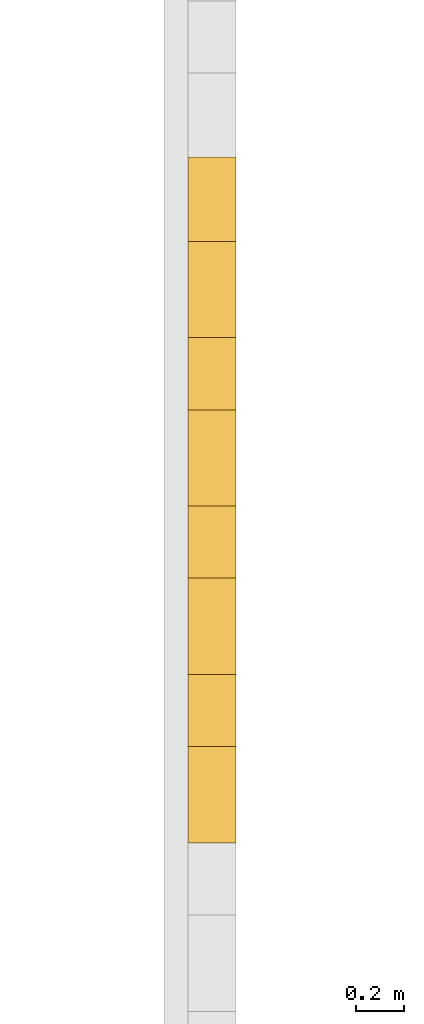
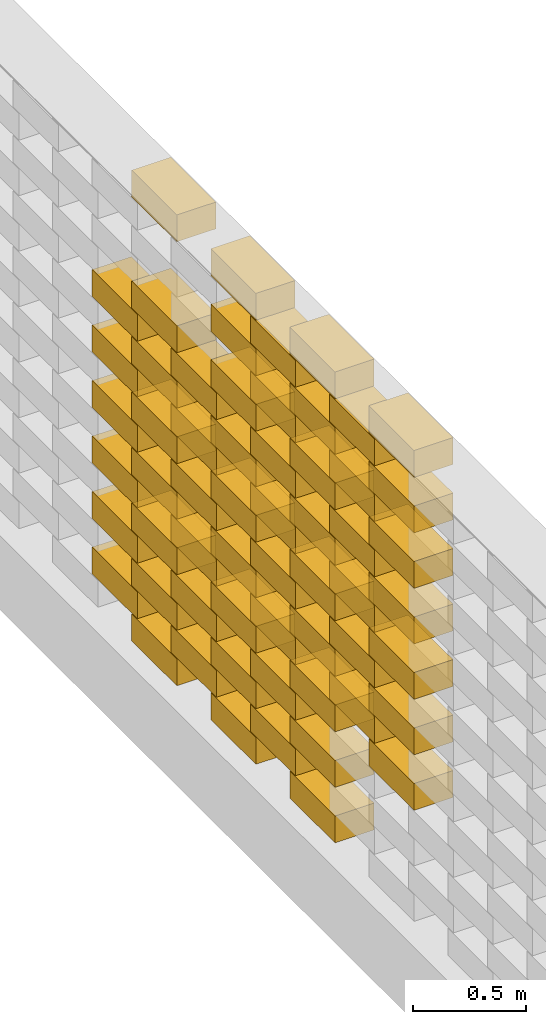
# One storey, part 41 of 62: 69 railings.
"""IFC2X3 building model written with IfcOpenShell, lengths in millimetres."""

from ifc_helpers import new_model, entity, si_unit, converted_unit, derived_unit, money_unit, direction, frame, origin_with_axes, place, context, subcontext, project, spatial, polyline, outline, extrude, material, type_object, element, save


model = new_model("IFC2X3")

# Units and contexts
model_context = context("Model", 3, precision=0.01, world=origin_with_axes(), true_north=direction((0.0, 1.0)))
body_context = subcontext(model_context, "Body", "Model", "MODEL_VIEW")
ifc_project = project(units=[si_unit("LENGTHUNIT", "METRE", prefix="MILLI"), si_unit("AREAUNIT", "SQUARE_METRE"), si_unit("VOLUMEUNIT", "CUBIC_METRE"), converted_unit("PLANEANGLEUNIT", "DEGREE", entity("IfcPlaneAngleMeasure", 0.0174532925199), si_unit("PLANEANGLEUNIT", "RADIAN"), dimensions=[0, 0, 0, 0, 0, 0, 0]), si_unit("SOLIDANGLEUNIT", "STERADIAN"), money_unit("EUR"), converted_unit("TIMEUNIT", "Year", entity("IfcTimeMeasure", 31556926.0), si_unit("TIMEUNIT", "SECOND"), dimensions=[0, 0, 1, 0, 0, 0, 0]), si_unit("MASSUNIT", "GRAM", prefix="KILO"), si_unit("THERMODYNAMICTEMPERATUREUNIT", "DEGREE_CELSIUS"), si_unit("LUMINOUSINTENSITYUNIT", "LUMEN"), si_unit("ENERGYUNIT", "JOULE", prefix="MEGA"), derived_unit("THERMALCONDUCTANCEUNIT", [(si_unit("POWERUNIT", "WATT"), 1), (si_unit("LENGTHUNIT", "METRE"), -1), (si_unit("THERMODYNAMICTEMPERATUREUNIT", "KELVIN"), -1)]), derived_unit("SPECIFICHEATCAPACITYUNIT", [(si_unit("ENERGYUNIT", "JOULE"), 1), (si_unit("MASSUNIT", "GRAM", prefix="KILO"), -1), (si_unit("THERMODYNAMICTEMPERATUREUNIT", "KELVIN"), -1)]), derived_unit("MASSDENSITYUNIT", [(si_unit("MASSUNIT", "GRAM", prefix="KILO"), 1), (si_unit("VOLUMEUNIT", "CUBIC_METRE"), -1)])], contexts=[model_context])

# Site, building, storey
site_placement = place(None, origin_with_axes())
site = spatial("IfcSite", under=ifc_project, at=site_placement, Name="KIRDE 14, ELVA", CompositionType="ELEMENT")
building_placement = place(site_placement, origin_with_axes())
building = spatial("IfcBuilding", under=site, at=building_placement, Name="PPA ja Päästeameti ühishoone", CompositionType="ELEMENT")
storey_placement = place(building_placement, origin_with_axes())
storey = spatial("IfcBuildingStorey", under=building, at=storey_placement, Name="Esimene korrus", CompositionType="ELEMENT", Elevation=0.0)

# Railings
ifc_material = material(Name="Air Space")
railing_type = type_object("IfcRailingType", Name="Air Space 200", PredefinedType="NOTDEFINED")
railing_1_placement = place(storey_placement, frame((620.000152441, -13923.8398399, 400.0), z_axis=(0.0, 0.0, 1.0), x_axis=(-1.45519152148e-09, -1.0, 0.0)))
element("IfcRailing", 1, at=railing_1_placement, inside=storey, type_object=railing_type, material=ifc_material, Name="plokk", PredefinedType="NOTDEFINED", context=body_context, shape_type="SweptSolid", body=[
    extrude(outline(polyline([(0.0, 0.0), (400.000000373, 0.0), (400.000000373, 200.0), (0.0, 200.0), (0.0, 0.0)])), origin_with_axes(), (0.0, 0.0, 1.0), 145.0),
])
railing_2_placement = place(storey_placement, frame((620.000151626, -14623.8398401, 400.0), z_axis=(0.0, 0.0, 1.0), x_axis=(1.30967236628e-09, -1.0, 0.0)))
element("IfcRailing", 2, at=railing_2_placement, inside=storey, type_object=railing_type, material=ifc_material, Name="plokk", PredefinedType="NOTDEFINED", context=body_context, shape_type="SweptSolid", body=[
    extrude(outline(polyline([(0.0, 0.0), (400.000001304, 0.0), (400.000001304, 200.0), (0.0, 200.0), (0.0, 0.0)])), origin_with_axes(), (0.0, 0.0, 1.0), 145.0),
])
railing_3_placement = place(storey_placement, frame((620.000152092, -15323.8398412, 400.0), z_axis=(0.0, 0.0, 1.0), x_axis=(1.89174898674e-09, -1.0, 0.0)))
element("IfcRailing", 3, at=railing_3_placement, inside=storey, type_object=railing_type, material=ifc_material, Name="plokk", PredefinedType="NOTDEFINED", context=body_context, shape_type="SweptSolid", body=[
    extrude(outline(polyline([(0.0, 0.0), (399.99999851, 0.0), (399.99999851, 200.0), (0.0, 200.0), (0.0, 0.0)])), origin_with_axes(), (0.0, 0.0, 1.0), 145.0),
])
railing_4_placement = place(storey_placement, frame((620.000152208, -13573.8398403, 550.0), z_axis=(0.0, 0.0, 1.0), x_axis=(-4.36557457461e-10, -1.0, 0.0)))
element("IfcRailing", 4, at=railing_4_placement, inside=storey, type_object=railing_type, material=ifc_material, Name="plokk", PredefinedType="NOTDEFINED", context=body_context, shape_type="SweptSolid", body=[
    extrude(outline(polyline([(0.0, 0.0), (399.999999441, 0.0), (399.999999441, 200.0), (0.0, 200.0), (0.0, 0.0)])), origin_with_axes(), (0.0, 0.0, 1.0), 145.0),
])
railing_5_placement = place(storey_placement, frame((620.000151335, -14273.8398414, 550.0), z_axis=(0.0, 0.0, 1.0), x_axis=(1.89174898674e-09, -1.0, 0.0)))
element("IfcRailing", 5, at=railing_5_placement, inside=storey, type_object=railing_type, material=ifc_material, Name="plokk", PredefinedType="NOTDEFINED", context=body_context, shape_type="SweptSolid", body=[
    extrude(outline(polyline([(0.0, 0.0), (399.99999851, 0.0), (399.99999851, 200.0), (0.0, 200.0), (0.0, 0.0)])), origin_with_axes(), (0.0, 0.0, 1.0), 145.0),
])
for number, where, z_axis, x_axis in (
    (6, (620.000152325, -14973.8398407, 550.0), (0.0, 0.0, 1.0), (7.27595760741e-10, -1.0, 0.0)),
    (7, (620.000152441, -13923.8398399, 700.0), (0.0, 0.0, 1.0), (-1.45519152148e-09, -1.0, 0.0)),
):
    element("IfcRailing", number, at=place(storey_placement, frame(where, z_axis=z_axis, x_axis=x_axis)), inside=storey, type_object=railing_type, material=ifc_material, Name="plokk", PredefinedType="NOTDEFINED", context=body_context, shape_type="SweptSolid", body=[
        extrude(outline(polyline([(0.0, 0.0), (400.000000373, 0.0), (400.000000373, 200.0), (0.0, 200.0), (0.0, 0.0)])), origin_with_axes(), (0.0, 0.0, 1.0), 145.0),
    ])
railing_6_placement = place(storey_placement, frame((620.000151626, -14623.8398401, 700.0), z_axis=(0.0, 0.0, 1.0), x_axis=(1.30967236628e-09, -1.0, 0.0)))
element("IfcRailing", 8, at=railing_6_placement, inside=storey, type_object=railing_type, material=ifc_material, Name="plokk", PredefinedType="NOTDEFINED", context=body_context, shape_type="SweptSolid", body=[
    extrude(outline(polyline([(0.0, 0.0), (400.000001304, 0.0), (400.000001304, 200.0), (0.0, 200.0), (0.0, 0.0)])), origin_with_axes(), (0.0, 0.0, 1.0), 145.0),
])
railing_7_placement = place(storey_placement, frame((620.000152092, -15323.8398412, 700.0), z_axis=(0.0, 0.0, 1.0), x_axis=(1.89174898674e-09, -1.0, 0.0)))
element("IfcRailing", 9, at=railing_7_placement, inside=storey, type_object=railing_type, material=ifc_material, Name="plokk", PredefinedType="NOTDEFINED", context=body_context, shape_type="SweptSolid", body=[
    extrude(outline(polyline([(0.0, 0.0), (399.99999851, 0.0), (399.99999851, 200.0), (0.0, 200.0), (0.0, 0.0)])), origin_with_axes(), (0.0, 0.0, 1.0), 145.0),
])
railing_8_placement = place(storey_placement, frame((620.000152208, -13573.8398403, 850.0), z_axis=(0.0, 0.0, 1.0), x_axis=(-4.36557457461e-10, -1.0, 0.0)))
element("IfcRailing", 10, at=railing_8_placement, inside=storey, type_object=railing_type, material=ifc_material, Name="plokk", PredefinedType="NOTDEFINED", context=body_context, shape_type="SweptSolid", body=[
    extrude(outline(polyline([(0.0, 0.0), (399.999999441, 0.0), (399.999999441, 200.0), (0.0, 200.0), (0.0, 0.0)])), origin_with_axes(), (0.0, 0.0, 1.0), 145.0),
])
railing_9_placement = place(storey_placement, frame((620.000151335, -14273.8398414, 850.0), z_axis=(0.0, 0.0, 1.0), x_axis=(1.89174898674e-09, -1.0, 0.0)))
element("IfcRailing", 11, at=railing_9_placement, inside=storey, type_object=railing_type, material=ifc_material, Name="plokk", PredefinedType="NOTDEFINED", context=body_context, shape_type="SweptSolid", body=[
    extrude(outline(polyline([(0.0, 0.0), (399.99999851, 0.0), (399.99999851, 200.0), (0.0, 200.0), (0.0, 0.0)])), origin_with_axes(), (0.0, 0.0, 1.0), 145.0),
])
for number, where, z_axis, x_axis in (
    (12, (620.000152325, -14973.8398407, 850.0), (0.0, 0.0, 1.0), (7.27595760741e-10, -1.0, 0.0)),
    (13, (620.000152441, -13923.8398399, 1000.0), (0.0, 0.0, 1.0), (-1.45519152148e-09, -1.0, 0.0)),
):
    element("IfcRailing", number, at=place(storey_placement, frame(where, z_axis=z_axis, x_axis=x_axis)), inside=storey, type_object=railing_type, material=ifc_material, Name="plokk", PredefinedType="NOTDEFINED", context=body_context, shape_type="SweptSolid", body=[
        extrude(outline(polyline([(0.0, 0.0), (400.000000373, 0.0), (400.000000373, 200.0), (0.0, 200.0), (0.0, 0.0)])), origin_with_axes(), (0.0, 0.0, 1.0), 145.0),
    ])
railing_10_placement = place(storey_placement, frame((620.000151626, -14623.8398401, 1000.0), z_axis=(0.0, 0.0, 1.0), x_axis=(1.30967236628e-09, -1.0, 0.0)))
element("IfcRailing", 14, at=railing_10_placement, inside=storey, type_object=railing_type, material=ifc_material, Name="plokk", PredefinedType="NOTDEFINED", context=body_context, shape_type="SweptSolid", body=[
    extrude(outline(polyline([(0.0, 0.0), (400.000001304, 0.0), (400.000001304, 200.0), (0.0, 200.0), (0.0, 0.0)])), origin_with_axes(), (0.0, 0.0, 1.0), 145.0),
])
railing_11_placement = place(storey_placement, frame((620.000152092, -15323.8398412, 1000.0), z_axis=(0.0, 0.0, 1.0), x_axis=(1.89174898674e-09, -1.0, 0.0)))
element("IfcRailing", 15, at=railing_11_placement, inside=storey, type_object=railing_type, material=ifc_material, Name="plokk", PredefinedType="NOTDEFINED", context=body_context, shape_type="SweptSolid", body=[
    extrude(outline(polyline([(0.0, 0.0), (399.99999851, 0.0), (399.99999851, 200.0), (0.0, 200.0), (0.0, 0.0)])), origin_with_axes(), (0.0, 0.0, 1.0), 145.0),
])
railing_12_placement = place(storey_placement, frame((620.000152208, -16023.8398405, 2800.0), z_axis=(0.0, 0.0, 1.0), x_axis=(0.0, -1.0, 0.0)))
element("IfcRailing", 16, at=railing_12_placement, inside=storey, type_object=railing_type, material=ifc_material, Name="plokk", PredefinedType="NOTDEFINED", context=body_context, shape_type="SweptSolid", body=[
    extrude(outline(polyline([(0.0, 0.0), (399.999999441, 0.0), (399.999999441, 200.0), (0.0, 200.0), (0.0, 0.0)])), origin_with_axes(), (0.0, 0.0, 1.0), 145.0),
])
railing_13_placement = place(storey_placement, frame((620.000152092, -15323.8398412, 2800.0), z_axis=(0.0, 0.0, 1.0), x_axis=(1.89174898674e-09, -1.0, 0.0)))
element("IfcRailing", 17, at=railing_13_placement, inside=storey, type_object=railing_type, material=ifc_material, Name="plokk", PredefinedType="NOTDEFINED", context=body_context, shape_type="SweptSolid", body=[
    extrude(outline(polyline([(0.0, 0.0), (399.99999851, 0.0), (399.99999851, 200.0), (0.0, 200.0), (0.0, 0.0)])), origin_with_axes(), (0.0, 0.0, 1.0), 145.0),
])
railing_14_placement = place(storey_placement, frame((620.000151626, -14623.8398401, 2800.0), z_axis=(0.0, 0.0, 1.0), x_axis=(1.30967236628e-09, -1.0, 0.0)))
element("IfcRailing", 18, at=railing_14_placement, inside=storey, type_object=railing_type, material=ifc_material, Name="plokk", PredefinedType="NOTDEFINED", context=body_context, shape_type="SweptSolid", body=[
    extrude(outline(polyline([(0.0, 0.0), (400.000001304, 0.0), (400.000001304, 200.0), (0.0, 200.0), (0.0, 0.0)])), origin_with_axes(), (0.0, 0.0, 1.0), 145.0),
])
for number, where, z_axis, x_axis in (
    (19, (620.000152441, -13923.8398399, 2800.0), (0.0, 0.0, 1.0), (-1.45519152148e-09, -1.0, 0.0)),
    (20, (620.000152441, -13923.8398399, 1000.0), (0.0, 0.0, 1.0), (-1.45519152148e-09, -1.0, 0.0)),
):
    element("IfcRailing", number, at=place(storey_placement, frame(where, z_axis=z_axis, x_axis=x_axis)), inside=storey, type_object=railing_type, material=ifc_material, Name="plokk", PredefinedType="NOTDEFINED", context=body_context, shape_type="SweptSolid", body=[
        extrude(outline(polyline([(0.0, 0.0), (400.000000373, 0.0), (400.000000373, 200.0), (0.0, 200.0), (0.0, 0.0)])), origin_with_axes(), (0.0, 0.0, 1.0), 145.0),
    ])
railing_15_placement = place(storey_placement, frame((620.000151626, -14623.8398401, 1000.0), z_axis=(0.0, 0.0, 1.0), x_axis=(1.30967236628e-09, -1.0, 0.0)))
element("IfcRailing", 21, at=railing_15_placement, inside=storey, type_object=railing_type, material=ifc_material, Name="plokk", PredefinedType="NOTDEFINED", context=body_context, shape_type="SweptSolid", body=[
    extrude(outline(polyline([(0.0, 0.0), (400.000001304, 0.0), (400.000001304, 200.0), (0.0, 200.0), (0.0, 0.0)])), origin_with_axes(), (0.0, 0.0, 1.0), 145.0),
])
railing_16_placement = place(storey_placement, frame((620.000152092, -15323.8398412, 1000.0), z_axis=(0.0, 0.0, 1.0), x_axis=(1.89174898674e-09, -1.0, 0.0)))
element("IfcRailing", 22, at=railing_16_placement, inside=storey, type_object=railing_type, material=ifc_material, Name="plokk", PredefinedType="NOTDEFINED", context=body_context, shape_type="SweptSolid", body=[
    extrude(outline(polyline([(0.0, 0.0), (399.99999851, 0.0), (399.99999851, 200.0), (0.0, 200.0), (0.0, 0.0)])), origin_with_axes(), (0.0, 0.0, 1.0), 145.0),
])
for number, where, z_axis, x_axis in (
    (23, (620.000152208, -16023.8398405, 1000.0), (0.0, 0.0, 1.0), (0.0, -1.0, 0.0)),
    (24, (620.000152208, -13573.8398403, 1150.0), (0.0, 0.0, 1.0), (-4.36557457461e-10, -1.0, 0.0)),
):
    element("IfcRailing", number, at=place(storey_placement, frame(where, z_axis=z_axis, x_axis=x_axis)), inside=storey, type_object=railing_type, material=ifc_material, Name="plokk", PredefinedType="NOTDEFINED", context=body_context, shape_type="SweptSolid", body=[
        extrude(outline(polyline([(0.0, 0.0), (399.999999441, 0.0), (399.999999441, 200.0), (0.0, 200.0), (0.0, 0.0)])), origin_with_axes(), (0.0, 0.0, 1.0), 145.0),
    ])
railing_17_placement = place(storey_placement, frame((620.000151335, -14273.8398414, 1150.0), z_axis=(0.0, 0.0, 1.0), x_axis=(1.89174898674e-09, -1.0, 0.0)))
element("IfcRailing", 25, at=railing_17_placement, inside=storey, type_object=railing_type, material=ifc_material, Name="plokk", PredefinedType="NOTDEFINED", context=body_context, shape_type="SweptSolid", body=[
    extrude(outline(polyline([(0.0, 0.0), (399.99999851, 0.0), (399.99999851, 200.0), (0.0, 200.0), (0.0, 0.0)])), origin_with_axes(), (0.0, 0.0, 1.0), 145.0),
])
railing_18_placement = place(storey_placement, frame((620.000152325, -14973.8398407, 1150.0), z_axis=(0.0, 0.0, 1.0), x_axis=(7.27595760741e-10, -1.0, 0.0)))
element("IfcRailing", 26, at=railing_18_placement, inside=storey, type_object=railing_type, material=ifc_material, Name="plokk", PredefinedType="NOTDEFINED", context=body_context, shape_type="SweptSolid", body=[
    extrude(outline(polyline([(0.0, 0.0), (400.000000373, 0.0), (400.000000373, 200.0), (0.0, 200.0), (0.0, 0.0)])), origin_with_axes(), (0.0, 0.0, 1.0), 145.0),
])
railing_19_placement = place(storey_placement, frame((620.000152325, -15673.8398409, 1150.0), z_axis=(0.0, 0.0, 1.0), x_axis=(-8.73114914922e-10, -1.0, 0.0)))
element("IfcRailing", 27, at=railing_19_placement, inside=storey, type_object=railing_type, material=ifc_material, Name="plokk", PredefinedType="NOTDEFINED", context=body_context, shape_type="SweptSolid", body=[
    extrude(outline(polyline([(0.0, 0.0), (399.999999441, 0.0), (399.999999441, 200.0), (0.0, 200.0), (0.0, 0.0)])), origin_with_axes(), (0.0, 0.0, 1.0), 145.0),
])
railing_20_placement = place(storey_placement, frame((620.000152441, -13923.8398399, 1300.0), z_axis=(0.0, 0.0, 1.0), x_axis=(-1.45519152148e-09, -1.0, 0.0)))
element("IfcRailing", 28, at=railing_20_placement, inside=storey, type_object=railing_type, material=ifc_material, Name="plokk", PredefinedType="NOTDEFINED", context=body_context, shape_type="SweptSolid", body=[
    extrude(outline(polyline([(0.0, 0.0), (400.000000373, 0.0), (400.000000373, 200.0), (0.0, 200.0), (0.0, 0.0)])), origin_with_axes(), (0.0, 0.0, 1.0), 145.0),
])
railing_21_placement = place(storey_placement, frame((620.000151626, -14623.8398401, 1300.0), z_axis=(0.0, 0.0, 1.0), x_axis=(1.30967236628e-09, -1.0, 0.0)))
element("IfcRailing", 29, at=railing_21_placement, inside=storey, type_object=railing_type, material=ifc_material, Name="plokk", PredefinedType="NOTDEFINED", context=body_context, shape_type="SweptSolid", body=[
    extrude(outline(polyline([(0.0, 0.0), (400.000001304, 0.0), (400.000001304, 200.0), (0.0, 200.0), (0.0, 0.0)])), origin_with_axes(), (0.0, 0.0, 1.0), 145.0),
])
railing_22_placement = place(storey_placement, frame((620.000152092, -15323.8398412, 1300.0), z_axis=(0.0, 0.0, 1.0), x_axis=(1.89174898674e-09, -1.0, 0.0)))
element("IfcRailing", 30, at=railing_22_placement, inside=storey, type_object=railing_type, material=ifc_material, Name="plokk", PredefinedType="NOTDEFINED", context=body_context, shape_type="SweptSolid", body=[
    extrude(outline(polyline([(0.0, 0.0), (399.99999851, 0.0), (399.99999851, 200.0), (0.0, 200.0), (0.0, 0.0)])), origin_with_axes(), (0.0, 0.0, 1.0), 145.0),
])
for number, where, z_axis, x_axis in (
    (31, (620.000152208, -16023.8398405, 1300.0), (0.0, 0.0, 1.0), (0.0, -1.0, 0.0)),
    (32, (620.000152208, -13573.8398403, 1450.0), (0.0, 0.0, 1.0), (-4.36557457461e-10, -1.0, 0.0)),
):
    element("IfcRailing", number, at=place(storey_placement, frame(where, z_axis=z_axis, x_axis=x_axis)), inside=storey, type_object=railing_type, material=ifc_material, Name="plokk", PredefinedType="NOTDEFINED", context=body_context, shape_type="SweptSolid", body=[
        extrude(outline(polyline([(0.0, 0.0), (399.999999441, 0.0), (399.999999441, 200.0), (0.0, 200.0), (0.0, 0.0)])), origin_with_axes(), (0.0, 0.0, 1.0), 145.0),
    ])
railing_23_placement = place(storey_placement, frame((620.000151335, -14273.8398414, 1450.0), z_axis=(0.0, 0.0, 1.0), x_axis=(1.89174898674e-09, -1.0, 0.0)))
element("IfcRailing", 33, at=railing_23_placement, inside=storey, type_object=railing_type, material=ifc_material, Name="plokk", PredefinedType="NOTDEFINED", context=body_context, shape_type="SweptSolid", body=[
    extrude(outline(polyline([(0.0, 0.0), (399.99999851, 0.0), (399.99999851, 200.0), (0.0, 200.0), (0.0, 0.0)])), origin_with_axes(), (0.0, 0.0, 1.0), 145.0),
])
railing_24_placement = place(storey_placement, frame((620.000152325, -14973.8398407, 1450.0), z_axis=(0.0, 0.0, 1.0), x_axis=(7.27595760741e-10, -1.0, 0.0)))
element("IfcRailing", 34, at=railing_24_placement, inside=storey, type_object=railing_type, material=ifc_material, Name="plokk", PredefinedType="NOTDEFINED", context=body_context, shape_type="SweptSolid", body=[
    extrude(outline(polyline([(0.0, 0.0), (400.000000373, 0.0), (400.000000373, 200.0), (0.0, 200.0), (0.0, 0.0)])), origin_with_axes(), (0.0, 0.0, 1.0), 145.0),
])
railing_25_placement = place(storey_placement, frame((620.000152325, -15673.8398409, 1450.0), z_axis=(0.0, 0.0, 1.0), x_axis=(-8.73114914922e-10, -1.0, 0.0)))
element("IfcRailing", 35, at=railing_25_placement, inside=storey, type_object=railing_type, material=ifc_material, Name="plokk", PredefinedType="NOTDEFINED", context=body_context, shape_type="SweptSolid", body=[
    extrude(outline(polyline([(0.0, 0.0), (399.999999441, 0.0), (399.999999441, 200.0), (0.0, 200.0), (0.0, 0.0)])), origin_with_axes(), (0.0, 0.0, 1.0), 145.0),
])
railing_26_placement = place(storey_placement, frame((620.000152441, -13923.8398399, 1600.0), z_axis=(0.0, 0.0, 1.0), x_axis=(-1.45519152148e-09, -1.0, 0.0)))
element("IfcRailing", 36, at=railing_26_placement, inside=storey, type_object=railing_type, material=ifc_material, Name="plokk", PredefinedType="NOTDEFINED", context=body_context, shape_type="SweptSolid", body=[
    extrude(outline(polyline([(0.0, 0.0), (400.000000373, 0.0), (400.000000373, 200.0), (0.0, 200.0), (0.0, 0.0)])), origin_with_axes(), (0.0, 0.0, 1.0), 145.0),
])
railing_27_placement = place(storey_placement, frame((620.000151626, -14623.8398401, 1600.0), z_axis=(0.0, 0.0, 1.0), x_axis=(1.30967236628e-09, -1.0, 0.0)))
element("IfcRailing", 37, at=railing_27_placement, inside=storey, type_object=railing_type, material=ifc_material, Name="plokk", PredefinedType="NOTDEFINED", context=body_context, shape_type="SweptSolid", body=[
    extrude(outline(polyline([(0.0, 0.0), (400.000001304, 0.0), (400.000001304, 200.0), (0.0, 200.0), (0.0, 0.0)])), origin_with_axes(), (0.0, 0.0, 1.0), 145.0),
])
railing_28_placement = place(storey_placement, frame((620.000152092, -15323.8398412, 1600.0), z_axis=(0.0, 0.0, 1.0), x_axis=(1.89174898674e-09, -1.0, 0.0)))
element("IfcRailing", 38, at=railing_28_placement, inside=storey, type_object=railing_type, material=ifc_material, Name="plokk", PredefinedType="NOTDEFINED", context=body_context, shape_type="SweptSolid", body=[
    extrude(outline(polyline([(0.0, 0.0), (399.99999851, 0.0), (399.99999851, 200.0), (0.0, 200.0), (0.0, 0.0)])), origin_with_axes(), (0.0, 0.0, 1.0), 145.0),
])
railing_29_placement = place(storey_placement, frame((620.000152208, -16023.8398405, 1600.0), z_axis=(0.0, 0.0, 1.0), x_axis=(0.0, -1.0, 0.0)))
element("IfcRailing", 39, at=railing_29_placement, inside=storey, type_object=railing_type, material=ifc_material, Name="plokk", PredefinedType="NOTDEFINED", context=body_context, shape_type="SweptSolid", body=[
    extrude(outline(polyline([(0.0, 0.0), (399.999999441, 0.0), (399.999999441, 200.0), (0.0, 200.0), (0.0, 0.0)])), origin_with_axes(), (0.0, 0.0, 1.0), 145.0),
])
railing_30_placement = place(storey_placement, frame((620.000152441, -13923.8398399, 1600.0), z_axis=(0.0, 0.0, 1.0), x_axis=(-1.45519152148e-09, -1.0, 0.0)))
element("IfcRailing", 40, at=railing_30_placement, inside=storey, type_object=railing_type, material=ifc_material, Name="plokk", PredefinedType="NOTDEFINED", context=body_context, shape_type="SweptSolid", body=[
    extrude(outline(polyline([(0.0, 0.0), (400.000000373, 0.0), (400.000000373, 200.0), (0.0, 200.0), (0.0, 0.0)])), origin_with_axes(), (0.0, 0.0, 1.0), 145.0),
])
railing_31_placement = place(storey_placement, frame((620.000151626, -14623.8398401, 1600.0), z_axis=(0.0, 0.0, 1.0), x_axis=(1.30967236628e-09, -1.0, 0.0)))
element("IfcRailing", 41, at=railing_31_placement, inside=storey, type_object=railing_type, material=ifc_material, Name="plokk", PredefinedType="NOTDEFINED", context=body_context, shape_type="SweptSolid", body=[
    extrude(outline(polyline([(0.0, 0.0), (400.000001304, 0.0), (400.000001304, 200.0), (0.0, 200.0), (0.0, 0.0)])), origin_with_axes(), (0.0, 0.0, 1.0), 145.0),
])
railing_32_placement = place(storey_placement, frame((620.000152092, -15323.8398412, 1600.0), z_axis=(0.0, 0.0, 1.0), x_axis=(1.89174898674e-09, -1.0, 0.0)))
element("IfcRailing", 42, at=railing_32_placement, inside=storey, type_object=railing_type, material=ifc_material, Name="plokk", PredefinedType="NOTDEFINED", context=body_context, shape_type="SweptSolid", body=[
    extrude(outline(polyline([(0.0, 0.0), (399.99999851, 0.0), (399.99999851, 200.0), (0.0, 200.0), (0.0, 0.0)])), origin_with_axes(), (0.0, 0.0, 1.0), 145.0),
])
for number, where, z_axis, x_axis in (
    (43, (620.000152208, -16023.8398405, 1600.0), (0.0, 0.0, 1.0), (0.0, -1.0, 0.0)),
    (44, (620.000152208, -13573.8398403, 1750.0), (0.0, 0.0, 1.0), (-4.36557457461e-10, -1.0, 0.0)),
):
    element("IfcRailing", number, at=place(storey_placement, frame(where, z_axis=z_axis, x_axis=x_axis)), inside=storey, type_object=railing_type, material=ifc_material, Name="plokk", PredefinedType="NOTDEFINED", context=body_context, shape_type="SweptSolid", body=[
        extrude(outline(polyline([(0.0, 0.0), (399.999999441, 0.0), (399.999999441, 200.0), (0.0, 200.0), (0.0, 0.0)])), origin_with_axes(), (0.0, 0.0, 1.0), 145.0),
    ])
railing_33_placement = place(storey_placement, frame((620.000151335, -14273.8398414, 1750.0), z_axis=(0.0, 0.0, 1.0), x_axis=(1.89174898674e-09, -1.0, 0.0)))
element("IfcRailing", 45, at=railing_33_placement, inside=storey, type_object=railing_type, material=ifc_material, Name="plokk", PredefinedType="NOTDEFINED", context=body_context, shape_type="SweptSolid", body=[
    extrude(outline(polyline([(0.0, 0.0), (399.99999851, 0.0), (399.99999851, 200.0), (0.0, 200.0), (0.0, 0.0)])), origin_with_axes(), (0.0, 0.0, 1.0), 145.0),
])
railing_34_placement = place(storey_placement, frame((620.000152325, -14973.8398407, 1750.0), z_axis=(0.0, 0.0, 1.0), x_axis=(7.27595760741e-10, -1.0, 0.0)))
element("IfcRailing", 46, at=railing_34_placement, inside=storey, type_object=railing_type, material=ifc_material, Name="plokk", PredefinedType="NOTDEFINED", context=body_context, shape_type="SweptSolid", body=[
    extrude(outline(polyline([(0.0, 0.0), (400.000000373, 0.0), (400.000000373, 200.0), (0.0, 200.0), (0.0, 0.0)])), origin_with_axes(), (0.0, 0.0, 1.0), 145.0),
])
railing_35_placement = place(storey_placement, frame((620.000152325, -15673.8398409, 1750.0), z_axis=(0.0, 0.0, 1.0), x_axis=(-8.73114914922e-10, -1.0, 0.0)))
element("IfcRailing", 47, at=railing_35_placement, inside=storey, type_object=railing_type, material=ifc_material, Name="plokk", PredefinedType="NOTDEFINED", context=body_context, shape_type="SweptSolid", body=[
    extrude(outline(polyline([(0.0, 0.0), (399.999999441, 0.0), (399.999999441, 200.0), (0.0, 200.0), (0.0, 0.0)])), origin_with_axes(), (0.0, 0.0, 1.0), 145.0),
])
railing_36_placement = place(storey_placement, frame((620.000152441, -13923.8398399, 1900.0), z_axis=(0.0, 0.0, 1.0), x_axis=(-1.45519152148e-09, -1.0, 0.0)))
element("IfcRailing", 48, at=railing_36_placement, inside=storey, type_object=railing_type, material=ifc_material, Name="plokk", PredefinedType="NOTDEFINED", context=body_context, shape_type="SweptSolid", body=[
    extrude(outline(polyline([(0.0, 0.0), (400.000000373, 0.0), (400.000000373, 200.0), (0.0, 200.0), (0.0, 0.0)])), origin_with_axes(), (0.0, 0.0, 1.0), 145.0),
])
railing_37_placement = place(storey_placement, frame((620.000151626, -14623.8398401, 1900.0), z_axis=(0.0, 0.0, 1.0), x_axis=(1.30967236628e-09, -1.0, 0.0)))
element("IfcRailing", 49, at=railing_37_placement, inside=storey, type_object=railing_type, material=ifc_material, Name="plokk", PredefinedType="NOTDEFINED", context=body_context, shape_type="SweptSolid", body=[
    extrude(outline(polyline([(0.0, 0.0), (400.000001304, 0.0), (400.000001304, 200.0), (0.0, 200.0), (0.0, 0.0)])), origin_with_axes(), (0.0, 0.0, 1.0), 145.0),
])
railing_38_placement = place(storey_placement, frame((620.000152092, -15323.8398412, 1900.0), z_axis=(0.0, 0.0, 1.0), x_axis=(1.89174898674e-09, -1.0, 0.0)))
element("IfcRailing", 50, at=railing_38_placement, inside=storey, type_object=railing_type, material=ifc_material, Name="plokk", PredefinedType="NOTDEFINED", context=body_context, shape_type="SweptSolid", body=[
    extrude(outline(polyline([(0.0, 0.0), (399.99999851, 0.0), (399.99999851, 200.0), (0.0, 200.0), (0.0, 0.0)])), origin_with_axes(), (0.0, 0.0, 1.0), 145.0),
])
for number, where, z_axis, x_axis in (
    (51, (620.000152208, -16023.8398405, 1900.0), (0.0, 0.0, 1.0), (0.0, -1.0, 0.0)),
    (52, (620.000152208, -13573.8398403, 2050.0), (0.0, 0.0, 1.0), (-4.36557457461e-10, -1.0, 0.0)),
):
    element("IfcRailing", number, at=place(storey_placement, frame(where, z_axis=z_axis, x_axis=x_axis)), inside=storey, type_object=railing_type, material=ifc_material, Name="plokk", PredefinedType="NOTDEFINED", context=body_context, shape_type="SweptSolid", body=[
        extrude(outline(polyline([(0.0, 0.0), (399.999999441, 0.0), (399.999999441, 200.0), (0.0, 200.0), (0.0, 0.0)])), origin_with_axes(), (0.0, 0.0, 1.0), 145.0),
    ])
railing_39_placement = place(storey_placement, frame((620.000151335, -14273.8398414, 2050.0), z_axis=(0.0, 0.0, 1.0), x_axis=(1.89174898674e-09, -1.0, 0.0)))
element("IfcRailing", 53, at=railing_39_placement, inside=storey, type_object=railing_type, material=ifc_material, Name="plokk", PredefinedType="NOTDEFINED", context=body_context, shape_type="SweptSolid", body=[
    extrude(outline(polyline([(0.0, 0.0), (399.99999851, 0.0), (399.99999851, 200.0), (0.0, 200.0), (0.0, 0.0)])), origin_with_axes(), (0.0, 0.0, 1.0), 145.0),
])
railing_40_placement = place(storey_placement, frame((620.000152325, -14973.8398407, 2050.0), z_axis=(0.0, 0.0, 1.0), x_axis=(7.27595760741e-10, -1.0, 0.0)))
element("IfcRailing", 54, at=railing_40_placement, inside=storey, type_object=railing_type, material=ifc_material, Name="plokk", PredefinedType="NOTDEFINED", context=body_context, shape_type="SweptSolid", body=[
    extrude(outline(polyline([(0.0, 0.0), (400.000000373, 0.0), (400.000000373, 200.0), (0.0, 200.0), (0.0, 0.0)])), origin_with_axes(), (0.0, 0.0, 1.0), 145.0),
])
railing_41_placement = place(storey_placement, frame((620.000152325, -15673.8398409, 2050.0), z_axis=(0.0, 0.0, 1.0), x_axis=(-8.73114914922e-10, -1.0, 0.0)))
element("IfcRailing", 55, at=railing_41_placement, inside=storey, type_object=railing_type, material=ifc_material, Name="plokk", PredefinedType="NOTDEFINED", context=body_context, shape_type="SweptSolid", body=[
    extrude(outline(polyline([(0.0, 0.0), (399.999999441, 0.0), (399.999999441, 200.0), (0.0, 200.0), (0.0, 0.0)])), origin_with_axes(), (0.0, 0.0, 1.0), 145.0),
])
railing_42_placement = place(storey_placement, frame((620.000152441, -13923.8398399, 2200.0), z_axis=(0.0, 0.0, 1.0), x_axis=(-1.45519152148e-09, -1.0, 0.0)))
element("IfcRailing", 56, at=railing_42_placement, inside=storey, type_object=railing_type, material=ifc_material, Name="plokk", PredefinedType="NOTDEFINED", context=body_context, shape_type="SweptSolid", body=[
    extrude(outline(polyline([(0.0, 0.0), (400.000000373, 0.0), (400.000000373, 200.0), (0.0, 200.0), (0.0, 0.0)])), origin_with_axes(), (0.0, 0.0, 1.0), 145.0),
])
railing_43_placement = place(storey_placement, frame((620.000151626, -14623.8398401, 2200.0), z_axis=(0.0, 0.0, 1.0), x_axis=(1.30967236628e-09, -1.0, 0.0)))
element("IfcRailing", 57, at=railing_43_placement, inside=storey, type_object=railing_type, material=ifc_material, Name="plokk", PredefinedType="NOTDEFINED", context=body_context, shape_type="SweptSolid", body=[
    extrude(outline(polyline([(0.0, 0.0), (400.000001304, 0.0), (400.000001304, 200.0), (0.0, 200.0), (0.0, 0.0)])), origin_with_axes(), (0.0, 0.0, 1.0), 145.0),
])
railing_44_placement = place(storey_placement, frame((620.000152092, -15323.8398412, 2200.0), z_axis=(0.0, 0.0, 1.0), x_axis=(1.89174898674e-09, -1.0, 0.0)))
element("IfcRailing", 58, at=railing_44_placement, inside=storey, type_object=railing_type, material=ifc_material, Name="plokk", PredefinedType="NOTDEFINED", context=body_context, shape_type="SweptSolid", body=[
    extrude(outline(polyline([(0.0, 0.0), (399.99999851, 0.0), (399.99999851, 200.0), (0.0, 200.0), (0.0, 0.0)])), origin_with_axes(), (0.0, 0.0, 1.0), 145.0),
])
railing_45_placement = place(storey_placement, frame((620.000152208, -16023.8398405, 2200.0), z_axis=(0.0, 0.0, 1.0), x_axis=(0.0, -1.0, 0.0)))
element("IfcRailing", 59, at=railing_45_placement, inside=storey, type_object=railing_type, material=ifc_material, Name="plokk", PredefinedType="NOTDEFINED", context=body_context, shape_type="SweptSolid", body=[
    extrude(outline(polyline([(0.0, 0.0), (399.999999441, 0.0), (399.999999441, 200.0), (0.0, 200.0), (0.0, 0.0)])), origin_with_axes(), (0.0, 0.0, 1.0), 145.0),
])
railing_46_placement = place(storey_placement, frame((620.000151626, -14623.8398401, 2200.0), z_axis=(0.0, 0.0, 1.0), x_axis=(1.30967236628e-09, -1.0, 0.0)))
element("IfcRailing", 60, at=railing_46_placement, inside=storey, type_object=railing_type, material=ifc_material, Name="plokk", PredefinedType="NOTDEFINED", context=body_context, shape_type="SweptSolid", body=[
    extrude(outline(polyline([(0.0, 0.0), (400.000001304, 0.0), (400.000001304, 200.0), (0.0, 200.0), (0.0, 0.0)])), origin_with_axes(), (0.0, 0.0, 1.0), 145.0),
])
railing_47_placement = place(storey_placement, frame((620.000152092, -15323.8398412, 2200.0), z_axis=(0.0, 0.0, 1.0), x_axis=(1.89174898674e-09, -1.0, 0.0)))
element("IfcRailing", 61, at=railing_47_placement, inside=storey, type_object=railing_type, material=ifc_material, Name="plokk", PredefinedType="NOTDEFINED", context=body_context, shape_type="SweptSolid", body=[
    extrude(outline(polyline([(0.0, 0.0), (399.99999851, 0.0), (399.99999851, 200.0), (0.0, 200.0), (0.0, 0.0)])), origin_with_axes(), (0.0, 0.0, 1.0), 145.0),
])
railing_48_placement = place(storey_placement, frame((620.000152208, -16023.8398405, 2200.0), z_axis=(0.0, 0.0, 1.0), x_axis=(0.0, -1.0, 0.0)))
element("IfcRailing", 62, at=railing_48_placement, inside=storey, type_object=railing_type, material=ifc_material, Name="plokk", PredefinedType="NOTDEFINED", context=body_context, shape_type="SweptSolid", body=[
    extrude(outline(polyline([(0.0, 0.0), (399.999999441, 0.0), (399.999999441, 200.0), (0.0, 200.0), (0.0, 0.0)])), origin_with_axes(), (0.0, 0.0, 1.0), 145.0),
])
railing_49_placement = place(storey_placement, frame((620.000152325, -14973.8398407, 2350.0), z_axis=(0.0, 0.0, 1.0), x_axis=(7.27595760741e-10, -1.0, 0.0)))
element("IfcRailing", 63, at=railing_49_placement, inside=storey, type_object=railing_type, material=ifc_material, Name="plokk", PredefinedType="NOTDEFINED", context=body_context, shape_type="SweptSolid", body=[
    extrude(outline(polyline([(0.0, 0.0), (400.000000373, 0.0), (400.000000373, 200.0), (0.0, 200.0), (0.0, 0.0)])), origin_with_axes(), (0.0, 0.0, 1.0), 145.0),
])
railing_50_placement = place(storey_placement, frame((620.000152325, -15673.8398409, 2350.0), z_axis=(0.0, 0.0, 1.0), x_axis=(-8.73114914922e-10, -1.0, 0.0)))
element("IfcRailing", 64, at=railing_50_placement, inside=storey, type_object=railing_type, material=ifc_material, Name="plokk", PredefinedType="NOTDEFINED", context=body_context, shape_type="SweptSolid", body=[
    extrude(outline(polyline([(0.0, 0.0), (399.999999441, 0.0), (399.999999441, 200.0), (0.0, 200.0), (0.0, 0.0)])), origin_with_axes(), (0.0, 0.0, 1.0), 145.0),
])
railing_51_placement = place(storey_placement, frame((620.000151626, -14623.8398401, 2500.0), z_axis=(0.0, 0.0, 1.0), x_axis=(1.30967236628e-09, -1.0, 0.0)))
element("IfcRailing", 65, at=railing_51_placement, inside=storey, type_object=railing_type, material=ifc_material, Name="plokk", PredefinedType="NOTDEFINED", context=body_context, shape_type="SweptSolid", body=[
    extrude(outline(polyline([(0.0, 0.0), (400.000001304, 0.0), (400.000001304, 200.0), (0.0, 200.0), (0.0, 0.0)])), origin_with_axes(), (0.0, 0.0, 1.0), 145.0),
])
railing_52_placement = place(storey_placement, frame((620.000152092, -15323.8398412, 2500.0), z_axis=(0.0, 0.0, 1.0), x_axis=(1.89174898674e-09, -1.0, 0.0)))
element("IfcRailing", 66, at=railing_52_placement, inside=storey, type_object=railing_type, material=ifc_material, Name="plokk", PredefinedType="NOTDEFINED", context=body_context, shape_type="SweptSolid", body=[
    extrude(outline(polyline([(0.0, 0.0), (399.99999851, 0.0), (399.99999851, 200.0), (0.0, 200.0), (0.0, 0.0)])), origin_with_axes(), (0.0, 0.0, 1.0), 145.0),
])
railing_53_placement = place(storey_placement, frame((620.000152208, -16023.8398405, 2500.0), z_axis=(0.0, 0.0, 1.0), x_axis=(0.0, -1.0, 0.0)))
element("IfcRailing", 67, at=railing_53_placement, inside=storey, type_object=railing_type, material=ifc_material, Name="plokk", PredefinedType="NOTDEFINED", context=body_context, shape_type="SweptSolid", body=[
    extrude(outline(polyline([(0.0, 0.0), (399.999999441, 0.0), (399.999999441, 200.0), (0.0, 200.0), (0.0, 0.0)])), origin_with_axes(), (0.0, 0.0, 1.0), 145.0),
])
railing_54_placement = place(storey_placement, frame((620.000152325, -14973.8398407, 2650.0), z_axis=(0.0, 0.0, 1.0), x_axis=(7.27595760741e-10, -1.0, 0.0)))
element("IfcRailing", 68, at=railing_54_placement, inside=storey, type_object=railing_type, material=ifc_material, Name="plokk", PredefinedType="NOTDEFINED", context=body_context, shape_type="SweptSolid", body=[
    extrude(outline(polyline([(0.0, 0.0), (400.000000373, 0.0), (400.000000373, 200.0), (0.0, 200.0), (0.0, 0.0)])), origin_with_axes(), (0.0, 0.0, 1.0), 145.0),
])
railing_55_placement = place(storey_placement, frame((620.000152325, -15673.8398409, 2650.0), z_axis=(0.0, 0.0, 1.0), x_axis=(-8.73114914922e-10, -1.0, 0.0)))
element("IfcRailing", 69, at=railing_55_placement, inside=storey, type_object=railing_type, material=ifc_material, Name="plokk", PredefinedType="NOTDEFINED", context=body_context, shape_type="SweptSolid", body=[
    extrude(outline(polyline([(0.0, 0.0), (399.999999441, 0.0), (399.999999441, 200.0), (0.0, 200.0), (0.0, 0.0)])), origin_with_axes(), (0.0, 0.0, 1.0), 145.0),
])

save(model, "model.ifc")
